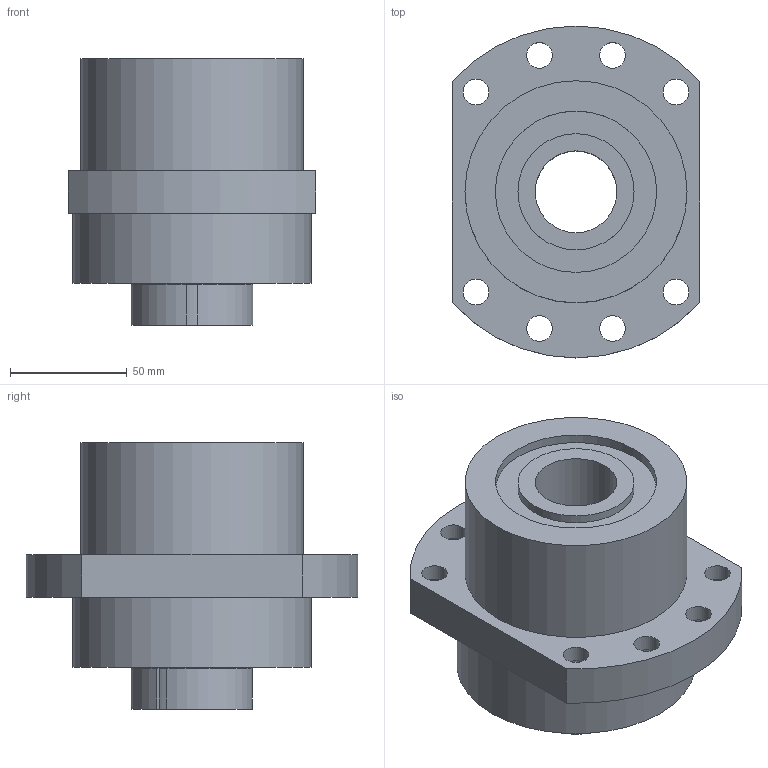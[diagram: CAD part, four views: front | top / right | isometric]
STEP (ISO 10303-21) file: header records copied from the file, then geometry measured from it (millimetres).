
FILE_DESCRIPTION(/* description */ (''),/* implementation_level */ '2;1');
FILE_NAME(/* name */ 'C:\Users\tenki620635\Desktop\官網\圖面\軸承座\3D\setp檔\WBK35 DFF.stp',/* time_stamp */ '2020-12-21T10:00:10+08:00',/* author */ ('tenki620635'),/* organization */ (''),/* preprocessor_version */ 'ST-DEVELOPER v15.2',/* originating_system */ 'Autodesk Inventor 2014',/* authorisation */ '');
FILE_SCHEMA (('AUTOMOTIVE_DESIGN { 1 0 10303 214 3 1 1 }'));
Length unit declared in the file: millimetre
Products named in the file (1): WBK35 DFF-Atype
Bounding box: 106 x 142 x 114 mm (x, y, z)
Volume: 715006.4 mm3; surface area: 81259.3 mm2
Topology: 1 solids, 1 shells, 58 faces, 120 edges, 80 vertices
Faces by surface type: cylinder 32, plane 26
Full cylindrical faces by diameter (mm): 11 x8, 17.5 x8, 35 x1, 47 x1, 49.7 x2, 69 x2, 95 x1, 102 x1
Entity records: 1505 total; most frequent: DIRECTION 278, CARTESIAN_POINT 235, ORIENTED_EDGE 192, AXIS2_PLACEMENT_3D 123, EDGE_LOOP 116, EDGE_CURVE 96, VERTEX_POINT 80, FACE_BOUND 66
